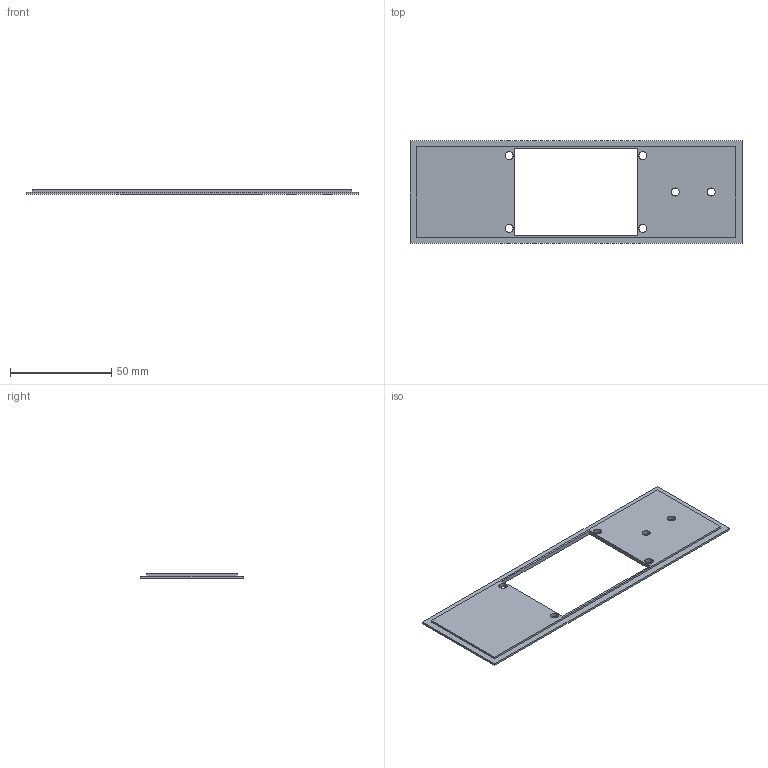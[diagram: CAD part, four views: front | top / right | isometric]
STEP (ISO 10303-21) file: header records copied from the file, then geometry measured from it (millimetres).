
FILE_DESCRIPTION(('FreeCAD Model'),'2;1');
FILE_NAME('Open CASCADE Shape Model','2026-07-02T09:15:23',('Author'),( ''),'Open CASCADE STEP processor 7.8','FreeCAD','Unknown');
FILE_SCHEMA(('AUTOMOTIVE_DESIGN { 1 0 10303 214 1 1 1 1 }'));
Length unit declared in the file: millimetre
Products named in the file (1): FrontPanel_164x50_5
Bounding box: 164 x 50.5 x 2 mm (x, y, z)
Volume: 9977.2 mm3; surface area: 12627 mm2
Topology: 1 solids, 1 shells, 21 faces, 54 edges, 36 vertices
Faces by surface type: plane 15, cylinder 6
Full cylindrical faces by diameter (mm): 4 x6
Entity records: 678 total; most frequent: CARTESIAN_POINT 112, DIRECTION 110, ORIENTED_EDGE 108, EDGE_CURVE 54, LINE 42, VECTOR 42, FACE_BOUND 36, EDGE_LOOP 36
